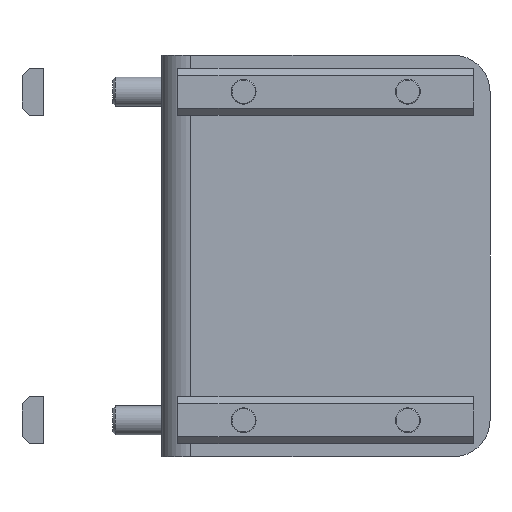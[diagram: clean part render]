
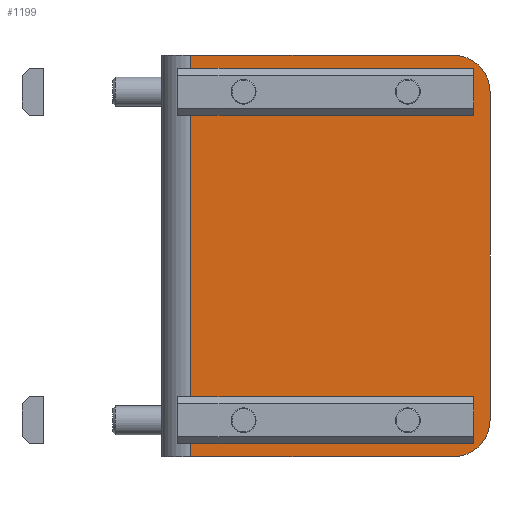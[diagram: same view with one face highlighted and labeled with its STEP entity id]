
A CAD part, front view. The second image highlights one B-rep face of the part: STEP entity #1199.
In plain terms, the highlighted planar face has unit normal (0, -1, 0).
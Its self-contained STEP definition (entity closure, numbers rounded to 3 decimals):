
#5 = DIRECTION ( 'NONE',  ( 0., 0., 1. ) ) ;
#38 = AXIS2_PLACEMENT_3D ( 'NONE', #540, #3819, #2646 ) ;
#58 = ORIENTED_EDGE ( 'NONE', *, *, #2774, .T. ) ;
#120 = CARTESIAN_POINT ( 'NONE',  ( 67.5, 0., 40.5 ) ) ;
#126 = FACE_BOUND ( 'NONE', #375, .T. ) ;
#145 = VERTEX_POINT ( 'NONE', #3485 ) ;
#243 = VERTEX_POINT ( 'NONE', #2011 ) ;
#252 = EDGE_LOOP ( 'NONE', ( #2362, #3734, #674, #1776, #1315, #858 ) ) ;
#258 = DIRECTION ( 'NONE',  ( 0., 0., 1. ) ) ;
#276 = LINE ( 'NONE', #1819, #2482 ) ;
#287 = ORIENTED_EDGE ( 'NONE', *, *, #770, .T. ) ;
#312 = EDGE_CURVE ( 'NONE', #243, #1638, #276, .T. ) ;
#318 = FACE_BOUND ( 'NONE', #994, .T. ) ;
#372 = DIRECTION ( 'NONE',  ( 0., 0., -1. ) ) ;
#375 = EDGE_LOOP ( 'NONE', ( #948, #2859 ) ) ;
#420 = DIRECTION ( 'NONE',  ( 0., 0., 1. ) ) ;
#503 = AXIS2_PLACEMENT_3D ( 'NONE', #964, #2462, #3658 ) ;
#510 = EDGE_CURVE ( 'NONE', #707, #1258, #1245, .T. ) ;
#540 = CARTESIAN_POINT ( 'NONE',  ( 0., 0., -55. ) ) ;
#541 = AXIS2_PLACEMENT_3D ( 'NONE', #3755, #1371, #2895 ) ;
#599 = DIRECTION ( 'NONE',  ( 0., 1., 0. ) ) ;
#652 = EDGE_CURVE ( 'NONE', #2492, #2913, #3050, .T. ) ;
#674 = ORIENTED_EDGE ( 'NONE', *, *, #2619, .F. ) ;
#706 = VERTEX_POINT ( 'NONE', #3466 ) ;
#707 = VERTEX_POINT ( 'NONE', #1641 ) ;
#739 = DIRECTION ( 'NONE',  ( 0., 1., 0. ) ) ;
#755 = CARTESIAN_POINT ( 'NONE',  ( 67.5, 0., -49.5 ) ) ;
#770 = EDGE_CURVE ( 'NONE', #706, #145, #1436, .T. ) ;
#829 = VECTOR ( 'NONE', #2072, 1000. ) ;
#830 = LINE ( 'NONE', #2943, #2998 ) ;
#834 = EDGE_CURVE ( 'NONE', #1258, #707, #2437, .T. ) ;
#844 = DIRECTION ( 'NONE',  ( 1., 0., 0. ) ) ;
#858 = ORIENTED_EDGE ( 'NONE', *, *, #1556, .T. ) ;
#891 = AXIS2_PLACEMENT_3D ( 'NONE', #3735, #739, #2209 ) ;
#938 = CARTESIAN_POINT ( 'NONE',  ( 90., 0., 45. ) ) ;
#945 = DIRECTION ( 'NONE',  ( 0., -1., 0. ) ) ;
#948 = ORIENTED_EDGE ( 'NONE', *, *, #510, .T. ) ;
#964 = CARTESIAN_POINT ( 'NONE',  ( 67.5, 0., -45. ) ) ;
#990 = AXIS2_PLACEMENT_3D ( 'NONE', #1534, #945, #372 ) ;
#994 = EDGE_LOOP ( 'NONE', ( #3029, #58 ) ) ;
#1054 = EDGE_CURVE ( 'NONE', #3250, #3791, #2796, .T. ) ;
#1119 = DIRECTION ( 'NONE',  ( 0., 0., 1. ) ) ;
#1157 = AXIS2_PLACEMENT_3D ( 'NONE', #3407, #2754, #3702 ) ;
#1185 = ORIENTED_EDGE ( 'NONE', *, *, #2169, .T. ) ;
#1186 = CARTESIAN_POINT ( 'NONE',  ( 22.5, 0., -45. ) ) ;
#1199 = ADVANCED_FACE ( 'NONE', ( #2707, #126, #318, #3859, #2038 ), #1987, .T. ) ;
#1245 = CIRCLE ( 'NONE', #1157, 4.5 ) ;
#1258 = VERTEX_POINT ( 'NONE', #2301 ) ;
#1270 = VERTEX_POINT ( 'NONE', #3263 ) ;
#1315 = ORIENTED_EDGE ( 'NONE', *, *, #3517, .T. ) ;
#1367 = CARTESIAN_POINT ( 'NONE',  ( 67.5, 0., 49.5 ) ) ;
#1371 = DIRECTION ( 'NONE',  ( 0., 1., 0. ) ) ;
#1382 = CIRCLE ( 'NONE', #541, 4.5 ) ;
#1416 = CARTESIAN_POINT ( 'NONE',  ( 0., 0., -55. ) ) ;
#1436 = CIRCLE ( 'NONE', #2792, 4.5 ) ;
#1474 = CIRCLE ( 'NONE', #503, 4.5 ) ;
#1519 = LINE ( 'NONE', #1416, #3753 ) ;
#1534 = CARTESIAN_POINT ( 'NONE',  ( 80., 0., -45. ) ) ;
#1556 = EDGE_CURVE ( 'NONE', #2342, #3250, #3234, .T. ) ;
#1586 = VERTEX_POINT ( 'NONE', #3374 ) ;
#1595 = AXIS2_PLACEMENT_3D ( 'NONE', #2949, #2012, #1749 ) ;
#1624 = CARTESIAN_POINT ( 'NONE',  ( 80., 0., -55. ) ) ;
#1638 = VERTEX_POINT ( 'NONE', #3459 ) ;
#1641 = CARTESIAN_POINT ( 'NONE',  ( 22.5, 0., -40.5 ) ) ;
#1749 = DIRECTION ( 'NONE',  ( 0., 0., -1. ) ) ;
#1776 = ORIENTED_EDGE ( 'NONE', *, *, #312, .F. ) ;
#1819 = CARTESIAN_POINT ( 'NONE',  ( 8., 0., -55. ) ) ;
#1881 = ORIENTED_EDGE ( 'NONE', *, *, #2373, .T. ) ;
#1939 = CIRCLE ( 'NONE', #2313, 4.5 ) ;
#1987 = PLANE ( 'NONE',  #38 ) ;
#2011 = CARTESIAN_POINT ( 'NONE',  ( 8., 0., -55. ) ) ;
#2012 = DIRECTION ( 'NONE',  ( 0., -1., 0. ) ) ;
#2021 = CARTESIAN_POINT ( 'NONE',  ( 22.5, 0., 45. ) ) ;
#2033 = DIRECTION ( 'NONE',  ( 0., 1., 0. ) ) ;
#2038 = FACE_OUTER_BOUND ( 'NONE', #252, .T. ) ;
#2072 = DIRECTION ( 'NONE',  ( 0., 0., 1. ) ) ;
#2169 = EDGE_CURVE ( 'NONE', #1586, #2916, #1474, .T. ) ;
#2209 = DIRECTION ( 'NONE',  ( 0., 0., 1. ) ) ;
#2265 = CARTESIAN_POINT ( 'NONE',  ( 67.5, 0., -45. ) ) ;
#2301 = CARTESIAN_POINT ( 'NONE',  ( 22.5, 0., -49.5 ) ) ;
#2313 = AXIS2_PLACEMENT_3D ( 'NONE', #3440, #2821, #420 ) ;
#2333 = DIRECTION ( 'NONE',  ( 0., 1., 0. ) ) ;
#2342 = VERTEX_POINT ( 'NONE', #1624 ) ;
#2362 = ORIENTED_EDGE ( 'NONE', *, *, #1054, .T. ) ;
#2373 = EDGE_CURVE ( 'NONE', #145, #706, #1939, .T. ) ;
#2437 = CIRCLE ( 'NONE', #3620, 4.5 ) ;
#2462 = DIRECTION ( 'NONE',  ( 0., 1., 0. ) ) ;
#2482 = VECTOR ( 'NONE', #5, 1000. ) ;
#2492 = VERTEX_POINT ( 'NONE', #1367 ) ;
#2589 = ORIENTED_EDGE ( 'NONE', *, *, #3079, .T. ) ;
#2619 = EDGE_CURVE ( 'NONE', #1638, #1270, #830, .T. ) ;
#2646 = DIRECTION ( 'NONE',  ( 0., 0., -1. ) ) ;
#2685 = DIRECTION ( 'NONE',  ( 0., 0., 1. ) ) ;
#2707 = FACE_BOUND ( 'NONE', #3689, .T. ) ;
#2745 = AXIS2_PLACEMENT_3D ( 'NONE', #2265, #2033, #258 ) ;
#2754 = DIRECTION ( 'NONE',  ( 0., 1., 0. ) ) ;
#2774 = EDGE_CURVE ( 'NONE', #2913, #2492, #1382, .T. ) ;
#2785 = EDGE_LOOP ( 'NONE', ( #1185, #2589 ) ) ;
#2792 = AXIS2_PLACEMENT_3D ( 'NONE', #2021, #2333, #1119 ) ;
#2796 = LINE ( 'NONE', #3352, #829 ) ;
#2821 = DIRECTION ( 'NONE',  ( 0., 1., 0. ) ) ;
#2859 = ORIENTED_EDGE ( 'NONE', *, *, #834, .T. ) ;
#2895 = DIRECTION ( 'NONE',  ( 0., 0., 1. ) ) ;
#2913 = VERTEX_POINT ( 'NONE', #120 ) ;
#2916 = VERTEX_POINT ( 'NONE', #755 ) ;
#2943 = CARTESIAN_POINT ( 'NONE',  ( 0., 0., 55. ) ) ;
#2949 = CARTESIAN_POINT ( 'NONE',  ( 80., 0., 45. ) ) ;
#2951 = CIRCLE ( 'NONE', #2745, 4.5 ) ;
#2998 = VECTOR ( 'NONE', #3568, 1000. ) ;
#3010 = CARTESIAN_POINT ( 'NONE',  ( 90., 0., -45. ) ) ;
#3029 = ORIENTED_EDGE ( 'NONE', *, *, #652, .T. ) ;
#3050 = CIRCLE ( 'NONE', #891, 4.5 ) ;
#3079 = EDGE_CURVE ( 'NONE', #2916, #1586, #2951, .T. ) ;
#3234 = CIRCLE ( 'NONE', #990, 10. ) ;
#3250 = VERTEX_POINT ( 'NONE', #3010 ) ;
#3263 = CARTESIAN_POINT ( 'NONE',  ( 80., 0., 55. ) ) ;
#3352 = CARTESIAN_POINT ( 'NONE',  ( 90., 0., -55. ) ) ;
#3374 = CARTESIAN_POINT ( 'NONE',  ( 67.5, 0., -40.5 ) ) ;
#3407 = CARTESIAN_POINT ( 'NONE',  ( 22.5, 0., -45. ) ) ;
#3440 = CARTESIAN_POINT ( 'NONE',  ( 22.5, 0., 45. ) ) ;
#3459 = CARTESIAN_POINT ( 'NONE',  ( 8., 0., 55. ) ) ;
#3466 = CARTESIAN_POINT ( 'NONE',  ( 22.5, 0., 40.5 ) ) ;
#3485 = CARTESIAN_POINT ( 'NONE',  ( 22.5, 0., 49.5 ) ) ;
#3492 = EDGE_CURVE ( 'NONE', #3791, #1270, #3512, .T. ) ;
#3512 = CIRCLE ( 'NONE', #1595, 10. ) ;
#3517 = EDGE_CURVE ( 'NONE', #243, #2342, #1519, .T. ) ;
#3568 = DIRECTION ( 'NONE',  ( 1., 0., 0. ) ) ;
#3620 = AXIS2_PLACEMENT_3D ( 'NONE', #1186, #599, #2685 ) ;
#3658 = DIRECTION ( 'NONE',  ( 0., 0., 1. ) ) ;
#3689 = EDGE_LOOP ( 'NONE', ( #1881, #287 ) ) ;
#3702 = DIRECTION ( 'NONE',  ( 0., 0., 1. ) ) ;
#3734 = ORIENTED_EDGE ( 'NONE', *, *, #3492, .T. ) ;
#3735 = CARTESIAN_POINT ( 'NONE',  ( 67.5, 0., 45. ) ) ;
#3753 = VECTOR ( 'NONE', #844, 1000. ) ;
#3755 = CARTESIAN_POINT ( 'NONE',  ( 67.5, 0., 45. ) ) ;
#3791 = VERTEX_POINT ( 'NONE', #938 ) ;
#3819 = DIRECTION ( 'NONE',  ( 0., -1., 0. ) ) ;
#3859 = FACE_BOUND ( 'NONE', #2785, .T. ) ;
